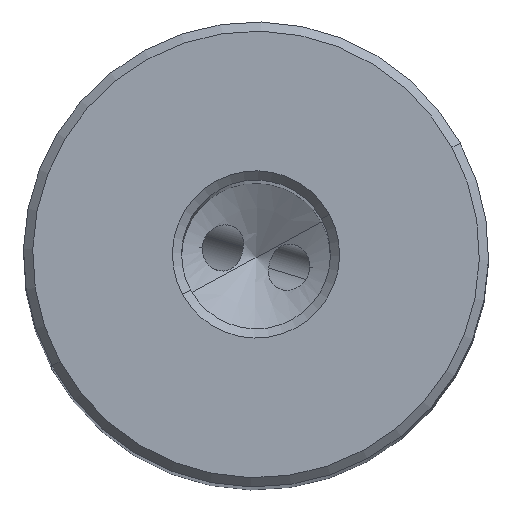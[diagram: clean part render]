
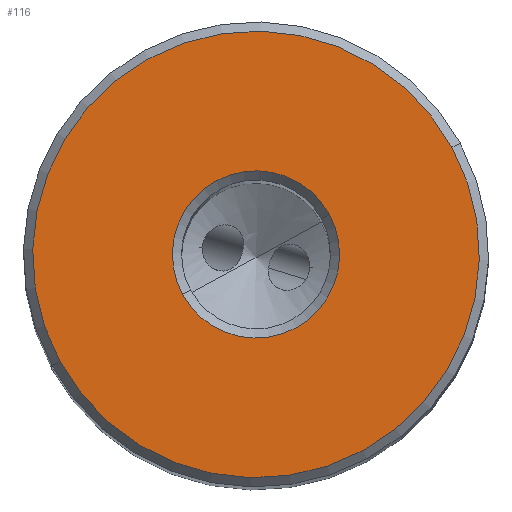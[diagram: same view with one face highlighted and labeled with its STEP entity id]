
A CAD part, top view. The second image highlights one B-rep face of the part: STEP entity #116.
In plain terms, the highlighted planar face has unit normal (0, 0, 1).
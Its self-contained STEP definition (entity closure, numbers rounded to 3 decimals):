
#62=AXIS2_PLACEMENT_3D('Circle Axis2P3D',#60,#61,$) ;
#79=AXIS2_PLACEMENT_3D('Circle Axis2P3D',#77,#78,$) ;
#92=AXIS2_PLACEMENT_3D('Plane Axis2P3D',#89,#90,#91) ;
#96=AXIS2_PLACEMENT_3D('Circle Axis2P3D',#94,#95,$) ;
#105=AXIS2_PLACEMENT_3D('Circle Axis2P3D',#103,#104,$) ;
#41=CARTESIAN_POINT('Vertex',(3.945,2.155,0.)) ;
#57=CARTESIAN_POINT('Vertex',(-3.945,-2.155,0.)) ;
#60=CARTESIAN_POINT('Axis2P3D Location',(0.,0.,0.)) ;
#77=CARTESIAN_POINT('Axis2P3D Location',(0.,0.,0.)) ;
#89=CARTESIAN_POINT('Axis2P3D Location',(-12.005,0.,0.)) ;
#94=CARTESIAN_POINT('Axis2P3D Location',(0.,0.,0.)) ;
#98=CARTESIAN_POINT('Vertex',(10.535,5.756,0.)) ;
#100=CARTESIAN_POINT('Vertex',(-10.535,-5.756,0.)) ;
#103=CARTESIAN_POINT('Axis2P3D Location',(0.,0.,0.)) ;
#61=DIRECTION('Axis2P3D Direction',(0.,0.,1.)) ;
#78=DIRECTION('Axis2P3D Direction',(0.,0.,1.)) ;
#90=DIRECTION('Axis2P3D Direction',(0.,0.,1.)) ;
#91=DIRECTION('Axis2P3D XDirection',(1.,0.,0.)) ;
#95=DIRECTION('Axis2P3D Direction',(0.,0.,1.)) ;
#104=DIRECTION('Axis2P3D Direction',(0.,0.,1.)) ;
#109=ORIENTED_EDGE('',*,*,#102,.T.) ;
#110=ORIENTED_EDGE('',*,*,#107,.T.) ;
#113=ORIENTED_EDGE('',*,*,#64,.F.) ;
#114=ORIENTED_EDGE('',*,*,#81,.F.) ;
#115=FACE_BOUND('',#112,.T.) ;
#116=ADVANCED_FACE('NO_CUT',(#111,#115),#93,.T.) ;
#63=CIRCLE('generated circle',#62,4.495) ;
#80=CIRCLE('generated circle',#79,4.495) ;
#97=CIRCLE('generated circle',#96,12.005) ;
#106=CIRCLE('generated circle',#105,12.005) ;
#64=EDGE_CURVE('',#58,#42,#63,.T.) ;
#81=EDGE_CURVE('',#42,#58,#80,.T.) ;
#102=EDGE_CURVE('',#99,#101,#97,.T.) ;
#107=EDGE_CURVE('',#101,#99,#106,.T.) ;
#108=EDGE_LOOP('',(#109,#110)) ;
#112=EDGE_LOOP('',(#113,#114)) ;
#111=FACE_OUTER_BOUND('',#108,.T.) ;
#93=PLANE('',#92) ;
#42=VERTEX_POINT('',#41) ;
#58=VERTEX_POINT('',#57) ;
#99=VERTEX_POINT('',#98) ;
#101=VERTEX_POINT('',#100) ;
